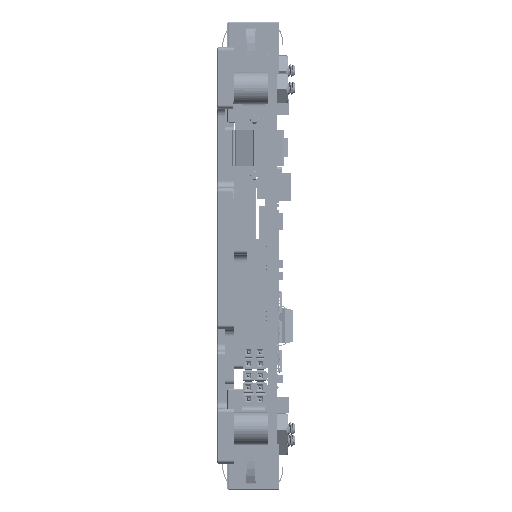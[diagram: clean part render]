
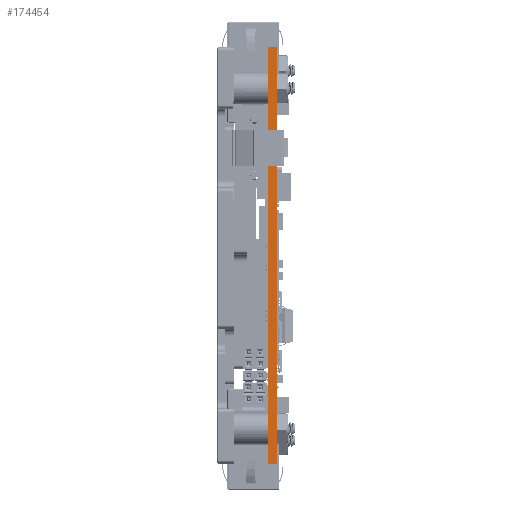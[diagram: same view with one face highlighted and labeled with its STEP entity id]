
A CAD part, left-side view. The second image highlights one B-rep face of the part: STEP entity #174454.
In plain terms, the highlighted planar face has unit normal (-1, 0, 0) as drawn and (0, 1, 0) by its records, which use the part's own axes.
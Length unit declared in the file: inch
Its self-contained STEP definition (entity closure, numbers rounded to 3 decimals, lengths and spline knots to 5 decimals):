
#40310 = VERTEX_POINT ( 'NONE', #354165 ) ;
#42960 = VERTEX_POINT ( 'NONE', #118113 ) ;
#49613 = AXIS2_PLACEMENT_3D ( 'NONE', #350436, #159347, #382503 ) ;
#105857 = LINE ( 'NONE', #159438, #265812 ) ;
#109871 = EDGE_CURVE ( 'NONE', #42960, #40310, #105857, .T. ) ;
#112504 = ORIENTED_EDGE ( 'NONE', *, *, #237204, .F. ) ;
#118113 = CARTESIAN_POINT ( 'NONE',  ( 3.55, 3.775, 0. ) ) ;
#136504 = ORIENTED_EDGE ( 'NONE', *, *, #367104, .F. ) ;
#143000 = EDGE_LOOP ( 'NONE', ( #307705, #281580, #136504, #112504 ) ) ;
#159347 = DIRECTION ( 'NONE',  ( 0., -1., 0. ) ) ;
#159438 = CARTESIAN_POINT ( 'NONE',  ( 0., 3.775, 0. ) ) ;
#174454 = ADVANCED_FACE ( 'NONE', ( #197140 ), #381085, .F. ) ;
#176750 = CARTESIAN_POINT ( 'NONE',  ( 3.55, 3.775, -0.0742 ) ) ;
#194791 = VECTOR ( 'NONE', #353116, 39.37008 ) ;
#197140 = FACE_OUTER_BOUND ( 'NONE', #143000, .T. ) ;
#214832 = CARTESIAN_POINT ( 'NONE',  ( 3.55, 3.775, -0.0742 ) ) ;
#223781 = DIRECTION ( 'NONE',  ( -1., 0., 0. ) ) ;
#237204 = EDGE_CURVE ( 'NONE', #295654, #252121, #319821, .T. ) ;
#241226 = CARTESIAN_POINT ( 'NONE',  ( 0., 3.775, -0.0742 ) ) ;
#252121 = VERTEX_POINT ( 'NONE', #176750 ) ;
#265812 = VECTOR ( 'NONE', #223781, 39.37008 ) ;
#273338 = DIRECTION ( 'NONE',  ( 1., 0., 0. ) ) ;
#281580 = ORIENTED_EDGE ( 'NONE', *, *, #109871, .F. ) ;
#285538 = VECTOR ( 'NONE', #405711, 39.37008 ) ;
#295593 = LINE ( 'NONE', #214832, #285538 ) ;
#295654 = VERTEX_POINT ( 'NONE', #313701 ) ;
#299463 = EDGE_CURVE ( 'NONE', #295654, #40310, #299753, .T. ) ;
#299753 = LINE ( 'NONE', #321013, #194791 ) ;
#307705 = ORIENTED_EDGE ( 'NONE', *, *, #299463, .T. ) ;
#309910 = VECTOR ( 'NONE', #273338, 39.37008 ) ;
#313701 = CARTESIAN_POINT ( 'NONE',  ( 0., 3.775, -0.0742 ) ) ;
#319821 = LINE ( 'NONE', #241226, #309910 ) ;
#321013 = CARTESIAN_POINT ( 'NONE',  ( 0., 3.775, -0.0742 ) ) ;
#350436 = CARTESIAN_POINT ( 'NONE',  ( 3.55, 3.775, -0.0742 ) ) ;
#353116 = DIRECTION ( 'NONE',  ( 0., 0., 1. ) ) ;
#354165 = CARTESIAN_POINT ( 'NONE',  ( 0., 3.775, 0. ) ) ;
#367104 = EDGE_CURVE ( 'NONE', #252121, #42960, #295593, .T. ) ;
#381085 = PLANE ( 'NONE',  #49613 ) ;
#382503 = DIRECTION ( 'NONE',  ( 0., 0., -1. ) ) ;
#405711 = DIRECTION ( 'NONE',  ( 0., 0., 1. ) ) ;
